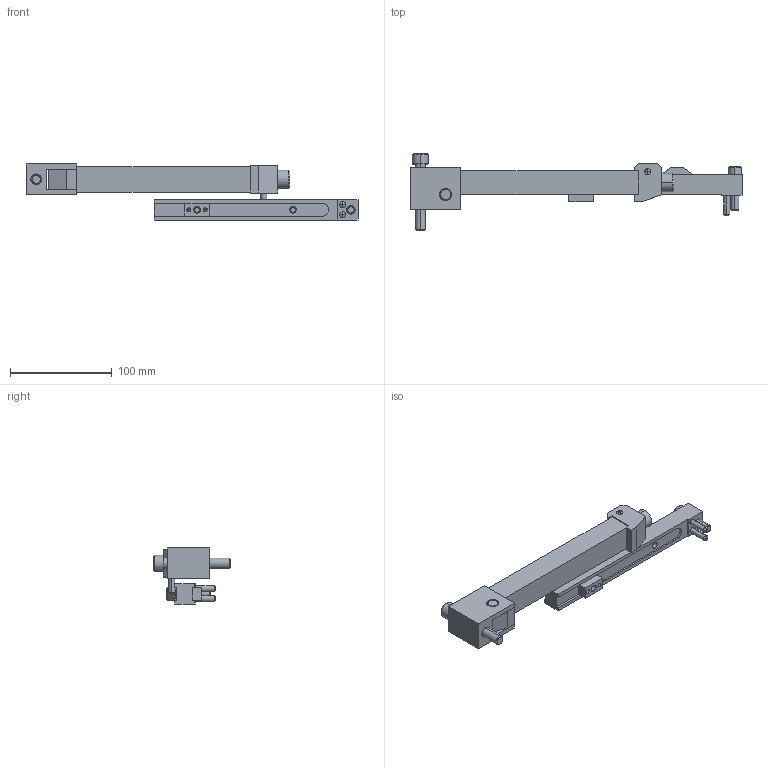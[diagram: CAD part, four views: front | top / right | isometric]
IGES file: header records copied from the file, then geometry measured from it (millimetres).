
Start section: START RECORD GO HERE.
Global section: file name: BOX200FIX.igs; native system: DASSAULT SYSTEMES CATIA V5 R20 - www.3ds.com; preprocessor: CATIA Version 5 Release 20 ; author: Utente; organization: NB04-ASUS; date: 20210221.175430; units: millimetre
Bounding box: 326 x 75 x 55 mm (x, y, z)
Surface area: 79217.7 mm2 (no closed solid volume)
Topology: 0 solids, 0 shells, 280 faces, 1568 edges, 1526 vertices
Faces by surface type: revolution 152, plane 128
